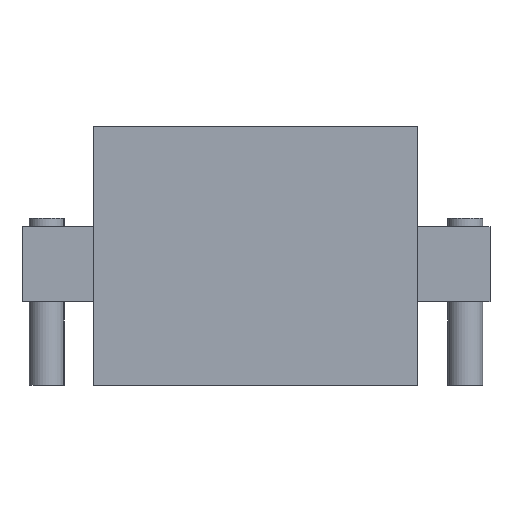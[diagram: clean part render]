
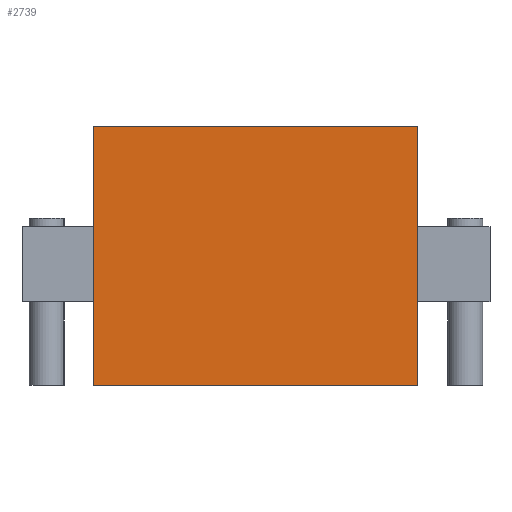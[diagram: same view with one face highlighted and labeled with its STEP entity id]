
A CAD part, left-side view. The second image highlights one B-rep face of the part: STEP entity #2739.
In plain terms, the highlighted planar face has unit normal (-1, 0, 0).
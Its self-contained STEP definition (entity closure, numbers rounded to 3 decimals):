
#44 = PLANE('',#45);
#45 = AXIS2_PLACEMENT_3D('',#46,#47,#48);
#46 = CARTESIAN_POINT('',(-0.02,0.031,0.));
#47 = DIRECTION('',(0.,0.,1.));
#48 = DIRECTION('',(1.,0.,0.));
#212 = PLANE('',#213);
#213 = AXIS2_PLACEMENT_3D('',#214,#215,#216);
#214 = CARTESIAN_POINT('',(-0.02,0.031,15.5)
  );
#215 = DIRECTION('',(0.,0.,1.));
#216 = DIRECTION('',(1.,0.,0.));
#507 = VERTEX_POINT('',#508);
#508 = CARTESIAN_POINT('',(-13.437,-9.674,0.));
#522 = PLANE('',#523);
#523 = AXIS2_PLACEMENT_3D('',#524,#525,#526);
#524 = CARTESIAN_POINT('',(-13.437,-9.674,0.));
#525 = DIRECTION('',(0.,1.,0.));
#526 = DIRECTION('',(1.,0.,0.));
#534 = EDGE_CURVE('',#507,#535,#537,.T.);
#535 = VERTEX_POINT('',#536);
#536 = CARTESIAN_POINT('',(-13.437,9.729,0.));
#537 = SURFACE_CURVE('',#538,(#542,#549),.PCURVE_S1.);
#538 = LINE('',#539,#540);
#539 = CARTESIAN_POINT('',(-13.437,-9.674,0.));
#540 = VECTOR('',#541,1.);
#541 = DIRECTION('',(0.,1.,0.));
#542 = PCURVE('',#44,#543);
#543 = DEFINITIONAL_REPRESENTATION('',(#544),#548);
#544 = LINE('',#545,#546);
#545 = CARTESIAN_POINT('',(-13.417,-9.704));
#546 = VECTOR('',#547,1.);
#547 = DIRECTION('',(0.,1.));
#548 = ( GEOMETRIC_REPRESENTATION_CONTEXT(2) 
PARAMETRIC_REPRESENTATION_CONTEXT() REPRESENTATION_CONTEXT('2D SPACE',''
  ) );
#549 = PCURVE('',#550,#555);
#550 = PLANE('',#551);
#551 = AXIS2_PLACEMENT_3D('',#552,#553,#554);
#552 = CARTESIAN_POINT('',(-13.437,-9.674,0.));
#553 = DIRECTION('',(-1.,0.,0.));
#554 = DIRECTION('',(0.,1.,0.));
#555 = DEFINITIONAL_REPRESENTATION('',(#556),#560);
#556 = LINE('',#557,#558);
#557 = CARTESIAN_POINT('',(0.,0.));
#558 = VECTOR('',#559,1.);
#559 = DIRECTION('',(1.,0.));
#560 = ( GEOMETRIC_REPRESENTATION_CONTEXT(2) 
PARAMETRIC_REPRESENTATION_CONTEXT() REPRESENTATION_CONTEXT('2D SPACE',''
  ) );
#578 = PLANE('',#579);
#579 = AXIS2_PLACEMENT_3D('',#580,#581,#582);
#580 = CARTESIAN_POINT('',(-13.437,9.729,0.));
#581 = DIRECTION('',(0.,1.,0.));
#582 = DIRECTION('',(1.,0.,0.));
#1063 = VERTEX_POINT('',#1064);
#1064 = CARTESIAN_POINT('',(-13.437,-9.674,15.5));
#1085 = EDGE_CURVE('',#1063,#1086,#1088,.T.);
#1086 = VERTEX_POINT('',#1087);
#1087 = CARTESIAN_POINT('',(-13.437,9.729,15.5));
#1088 = SURFACE_CURVE('',#1089,(#1093,#1100),.PCURVE_S1.);
#1089 = LINE('',#1090,#1091);
#1090 = CARTESIAN_POINT('',(-13.437,-9.674,15.5));
#1091 = VECTOR('',#1092,1.);
#1092 = DIRECTION('',(0.,1.,0.));
#1093 = PCURVE('',#212,#1094);
#1094 = DEFINITIONAL_REPRESENTATION('',(#1095),#1099);
#1095 = LINE('',#1096,#1097);
#1096 = CARTESIAN_POINT('',(-13.417,-9.704));
#1097 = VECTOR('',#1098,1.);
#1098 = DIRECTION('',(0.,1.));
#1099 = ( GEOMETRIC_REPRESENTATION_CONTEXT(2) 
PARAMETRIC_REPRESENTATION_CONTEXT() REPRESENTATION_CONTEXT('2D SPACE',''
  ) );
#1100 = PCURVE('',#550,#1101);
#1101 = DEFINITIONAL_REPRESENTATION('',(#1102),#1106);
#1102 = LINE('',#1103,#1104);
#1103 = CARTESIAN_POINT('',(0.,-15.5));
#1104 = VECTOR('',#1105,1.);
#1105 = DIRECTION('',(1.,0.));
#1106 = ( GEOMETRIC_REPRESENTATION_CONTEXT(2) 
PARAMETRIC_REPRESENTATION_CONTEXT() REPRESENTATION_CONTEXT('2D SPACE',''
  ) );
#2622 = EDGE_CURVE('',#507,#1063,#2623,.T.);
#2623 = SURFACE_CURVE('',#2624,(#2628,#2635),.PCURVE_S1.);
#2624 = LINE('',#2625,#2626);
#2625 = CARTESIAN_POINT('',(-13.437,-9.674,0.));
#2626 = VECTOR('',#2627,1.);
#2627 = DIRECTION('',(0.,0.,1.));
#2628 = PCURVE('',#522,#2629);
#2629 = DEFINITIONAL_REPRESENTATION('',(#2630),#2634);
#2630 = LINE('',#2631,#2632);
#2631 = CARTESIAN_POINT('',(0.,0.));
#2632 = VECTOR('',#2633,1.);
#2633 = DIRECTION('',(0.,-1.));
#2634 = ( GEOMETRIC_REPRESENTATION_CONTEXT(2) 
PARAMETRIC_REPRESENTATION_CONTEXT() REPRESENTATION_CONTEXT('2D SPACE',''
  ) );
#2635 = PCURVE('',#550,#2636);
#2636 = DEFINITIONAL_REPRESENTATION('',(#2637),#2641);
#2637 = LINE('',#2638,#2639);
#2638 = CARTESIAN_POINT('',(0.,0.));
#2639 = VECTOR('',#2640,1.);
#2640 = DIRECTION('',(0.,-1.));
#2641 = ( GEOMETRIC_REPRESENTATION_CONTEXT(2) 
PARAMETRIC_REPRESENTATION_CONTEXT() REPRESENTATION_CONTEXT('2D SPACE',''
  ) );
#2739 = ADVANCED_FACE('',(#2740),#550,.T.);
#2740 = FACE_BOUND('',#2741,.T.);
#2741 = EDGE_LOOP('',(#2742,#2743,#2744,#2765));
#2742 = ORIENTED_EDGE('',*,*,#2622,.T.);
#2743 = ORIENTED_EDGE('',*,*,#1085,.T.);
#2744 = ORIENTED_EDGE('',*,*,#2745,.F.);
#2745 = EDGE_CURVE('',#535,#1086,#2746,.T.);
#2746 = SURFACE_CURVE('',#2747,(#2751,#2758),.PCURVE_S1.);
#2747 = LINE('',#2748,#2749);
#2748 = CARTESIAN_POINT('',(-13.437,9.729,0.));
#2749 = VECTOR('',#2750,1.);
#2750 = DIRECTION('',(0.,0.,1.));
#2751 = PCURVE('',#550,#2752);
#2752 = DEFINITIONAL_REPRESENTATION('',(#2753),#2757);
#2753 = LINE('',#2754,#2755);
#2754 = CARTESIAN_POINT('',(19.403,0.));
#2755 = VECTOR('',#2756,1.);
#2756 = DIRECTION('',(0.,-1.));
#2757 = ( GEOMETRIC_REPRESENTATION_CONTEXT(2) 
PARAMETRIC_REPRESENTATION_CONTEXT() REPRESENTATION_CONTEXT('2D SPACE',''
  ) );
#2758 = PCURVE('',#578,#2759);
#2759 = DEFINITIONAL_REPRESENTATION('',(#2760),#2764);
#2760 = LINE('',#2761,#2762);
#2761 = CARTESIAN_POINT('',(0.,0.));
#2762 = VECTOR('',#2763,1.);
#2763 = DIRECTION('',(0.,-1.));
#2764 = ( GEOMETRIC_REPRESENTATION_CONTEXT(2) 
PARAMETRIC_REPRESENTATION_CONTEXT() REPRESENTATION_CONTEXT('2D SPACE',''
  ) );
#2765 = ORIENTED_EDGE('',*,*,#534,.F.);
